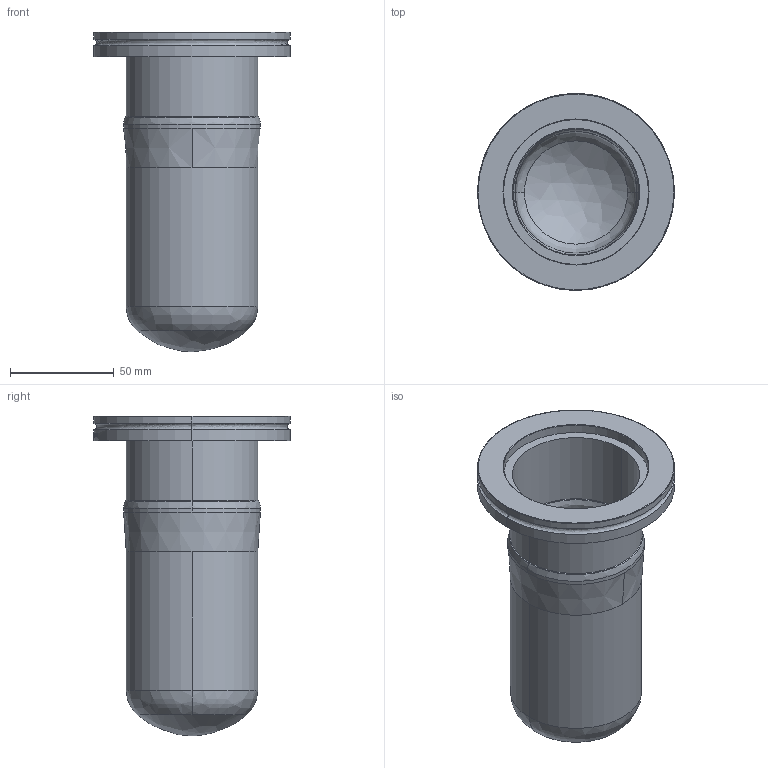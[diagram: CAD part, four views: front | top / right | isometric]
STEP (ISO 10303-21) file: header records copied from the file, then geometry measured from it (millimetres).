
FILE_DESCRIPTION (( 'STEP AP203' ), '1' );
FILE_NAME ('211011.stp', '2022-11-16T15:41:55', ( '' ), ( '' ), 'SwSTEP 2.0', 'SolidWorks 2012', '' );
FILE_SCHEMA (( 'CONFIG_CONTROL_DESIGN' ));
Length unit declared in the file: centimetre
Products named in the file (1): 211011
Bounding box: 95 x 95 x 154.31 mm (x, y, z)
Volume: 99048.5 mm3; surface area: 71875 mm2
Topology: 1 solids, 1 shells, 339 faces, 882 edges, 578 vertices
Faces by surface type: bspline 163, plane 118, cylinder 52, cone 6
Entity records: 37032 total; most frequent: CARTESIAN_POINT 29825, ORIENTED_EDGE 1764, DIRECTION 1000, EDGE_CURVE 882, VERTEX_POINT 578, EDGE_LOOP 372, B_SPLINE_CURVE_WITH_KNOTS 362, AXIS2_PLACEMENT_3D 341
